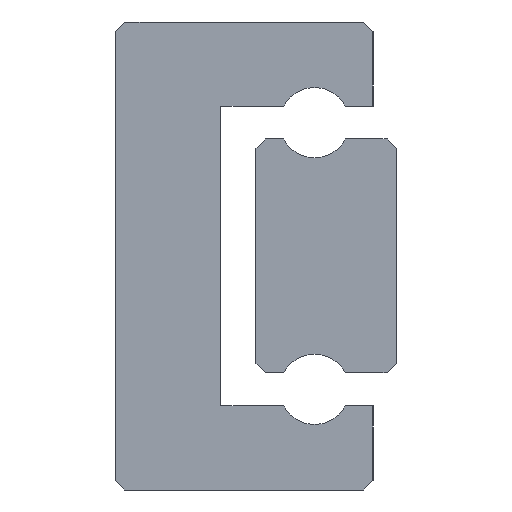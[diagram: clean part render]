
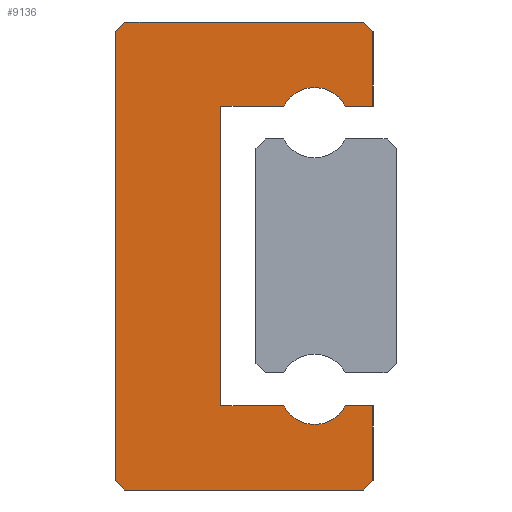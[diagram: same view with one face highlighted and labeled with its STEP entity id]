
A CAD part, left-side view. The second image highlights one B-rep face of the part: STEP entity #9136.
In plain terms, the highlighted planar face has unit normal (-1, 0, 0).
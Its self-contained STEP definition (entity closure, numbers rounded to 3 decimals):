
#65=PLANE('',#9946);
#271=LINE('',#13918,#1077);
#409=LINE('',#14691,#1215);
#412=LINE('',#14697,#1218);
#415=LINE('',#14703,#1221);
#419=LINE('',#14715,#1225);
#422=LINE('',#14729,#1228);
#425=LINE('',#14735,#1231);
#429=LINE('',#14747,#1235);
#432=LINE('',#14753,#1238);
#435=LINE('',#14759,#1241);
#438=LINE('',#14765,#1244);
#441=LINE('',#14771,#1247);
#444=LINE('',#14785,#1250);
#447=LINE('',#14791,#1253);
#1077=VECTOR('',#10863,1000.);
#1215=VECTOR('',#11499,1000.);
#1218=VECTOR('',#11504,1000.);
#1221=VECTOR('',#11509,1000.);
#1225=VECTOR('',#11521,1000.);
#1228=VECTOR('',#11534,1000.);
#1231=VECTOR('',#11539,1000.);
#1235=VECTOR('',#11551,1000.);
#1238=VECTOR('',#11556,1000.);
#1241=VECTOR('',#11561,1000.);
#1244=VECTOR('',#11566,1000.);
#1247=VECTOR('',#11571,1000.);
#1250=VECTOR('',#11584,1000.);
#1253=VECTOR('',#11589,1000.);
#2409=ORIENTED_EDGE('',*,*,#4731,.F.);
#2410=ORIENTED_EDGE('',*,*,#5167,.F.);
#2411=ORIENTED_EDGE('',*,*,#5164,.F.);
#2412=ORIENTED_EDGE('',*,*,#5157,.F.);
#2413=ORIENTED_EDGE('',*,*,#5154,.F.);
#2414=ORIENTED_EDGE('',*,*,#5151,.F.);
#2415=ORIENTED_EDGE('',*,*,#5148,.F.);
#2416=ORIENTED_EDGE('',*,*,#5145,.F.);
#2417=ORIENTED_EDGE('',*,*,#5142,.T.);
#2418=ORIENTED_EDGE('',*,*,#5139,.F.);
#2419=ORIENTED_EDGE('',*,*,#5136,.F.);
#2420=ORIENTED_EDGE('',*,*,#5129,.F.);
#2421=ORIENTED_EDGE('',*,*,#5126,.T.);
#2422=ORIENTED_EDGE('',*,*,#5123,.F.);
#2423=ORIENTED_EDGE('',*,*,#5120,.F.);
#2424=ORIENTED_EDGE('',*,*,#5117,.F.);
#4731=EDGE_CURVE('',#6137,#6138,#271,.T.);
#5117=EDGE_CURVE('',#6138,#6523,#409,.T.);
#5120=EDGE_CURVE('',#6523,#6525,#412,.T.);
#5123=EDGE_CURVE('',#6525,#6527,#415,.T.);
#5126=EDGE_CURVE('',#6529,#6527,#7317,.T.);
#5129=EDGE_CURVE('',#6529,#6531,#419,.T.);
#5136=EDGE_CURVE('',#6531,#6537,#422,.T.);
#5139=EDGE_CURVE('',#6537,#6539,#425,.T.);
#5142=EDGE_CURVE('',#6541,#6539,#7323,.T.);
#5145=EDGE_CURVE('',#6541,#6543,#429,.T.);
#5148=EDGE_CURVE('',#6543,#6545,#432,.T.);
#5151=EDGE_CURVE('',#6545,#6547,#435,.T.);
#5154=EDGE_CURVE('',#6547,#6549,#438,.T.);
#5157=EDGE_CURVE('',#6549,#6551,#441,.T.);
#5164=EDGE_CURVE('',#6551,#6557,#444,.T.);
#5167=EDGE_CURVE('',#6557,#6137,#447,.T.);
#6137=VERTEX_POINT('',#13919);
#6138=VERTEX_POINT('',#13920);
#6523=VERTEX_POINT('',#14692);
#6525=VERTEX_POINT('',#14698);
#6527=VERTEX_POINT('',#14704);
#6529=VERTEX_POINT('',#14710);
#6531=VERTEX_POINT('',#14716);
#6537=VERTEX_POINT('',#14730);
#6539=VERTEX_POINT('',#14736);
#6541=VERTEX_POINT('',#14742);
#6543=VERTEX_POINT('',#14748);
#6545=VERTEX_POINT('',#14754);
#6547=VERTEX_POINT('',#14760);
#6549=VERTEX_POINT('',#14766);
#6551=VERTEX_POINT('',#14772);
#6557=VERTEX_POINT('',#14786);
#7317=CIRCLE('',#9922,0.75);
#7323=CIRCLE('',#9932,0.75);
#7745=EDGE_LOOP('',(#2409,#2410,#2411,#2412,#2413,#2414,#2415,#2416,#2417,
#2418,#2419,#2420,#2421,#2422,#2423,#2424));
#8309=FACE_BOUND('',#7745,.T.);
#9136=ADVANCED_FACE('',(#8309),#65,.F.);
#9922=AXIS2_PLACEMENT_3D('',#14709,#11514,#11515);
#9932=AXIS2_PLACEMENT_3D('',#14741,#11544,#11545);
#9946=AXIS2_PLACEMENT_3D('',#14794,#11593,#11594);
#10863=DIRECTION('',(0.,-1.,0.));
#11499=DIRECTION('',(0.,-0.707,-0.707));
#11504=DIRECTION('',(0.,0.,-1.));
#11509=DIRECTION('',(0.,1.,0.));
#11514=DIRECTION('',(1.,0.,0.));
#11515=DIRECTION('',(0.,0.,-1.));
#11521=DIRECTION('',(0.,1.,0.));
#11534=DIRECTION('',(0.,0.,-1.));
#11539=DIRECTION('',(0.,-1.,0.));
#11544=DIRECTION('',(1.,0.,0.));
#11545=DIRECTION('',(0.,0.,-1.));
#11551=DIRECTION('',(0.,-1.,0.));
#11556=DIRECTION('',(0.,0.,-1.));
#11561=DIRECTION('',(0.,0.707,-0.707));
#11566=DIRECTION('',(0.,1.,0.));
#11571=DIRECTION('',(0.,0.707,0.707));
#11584=DIRECTION('',(0.,0.,1.));
#11589=DIRECTION('',(0.,-0.707,0.707));
#11593=DIRECTION('',(1.,0.,0.));
#11594=DIRECTION('',(0.,0.,-1.));
#13918=CARTESIAN_POINT('',(-12.5,5.3,5.));
#13919=CARTESIAN_POINT('',(-12.5,5.3,5.));
#13920=CARTESIAN_POINT('',(-12.5,0.2,5.));
#14691=CARTESIAN_POINT('',(-12.5,0.2,5.));
#14692=CARTESIAN_POINT('',(-12.5,0.,4.8));
#14697=CARTESIAN_POINT('',(-12.5,0.,4.8));
#14698=CARTESIAN_POINT('',(-12.5,0.,3.2));
#14703=CARTESIAN_POINT('',(-12.5,0.,3.2));
#14704=CARTESIAN_POINT('',(-12.5,0.587,3.2));
#14709=CARTESIAN_POINT('',(-12.5,1.25,2.85));
#14710=CARTESIAN_POINT('',(-12.5,1.913,3.2));
#14715=CARTESIAN_POINT('',(-12.5,1.913,3.2));
#14716=CARTESIAN_POINT('',(-12.5,3.25,3.2));
#14729=CARTESIAN_POINT('',(-12.5,3.25,3.2));
#14730=CARTESIAN_POINT('',(-12.5,3.25,-3.2));
#14735=CARTESIAN_POINT('',(-12.5,3.25,-3.2));
#14736=CARTESIAN_POINT('',(-12.5,1.913,-3.2));
#14741=CARTESIAN_POINT('',(-12.5,1.25,-2.85));
#14742=CARTESIAN_POINT('',(-12.5,0.587,-3.2));
#14747=CARTESIAN_POINT('',(-12.5,0.587,-3.2));
#14748=CARTESIAN_POINT('',(-12.5,0.,-3.2));
#14753=CARTESIAN_POINT('',(-12.5,0.,-3.2));
#14754=CARTESIAN_POINT('',(-12.5,0.,-4.8));
#14759=CARTESIAN_POINT('',(-12.5,0.,-4.8));
#14760=CARTESIAN_POINT('',(-12.5,0.2,-5.));
#14765=CARTESIAN_POINT('',(-12.5,0.2,-5.));
#14766=CARTESIAN_POINT('',(-12.5,5.3,-5.));
#14771=CARTESIAN_POINT('',(-12.5,5.3,-5.));
#14772=CARTESIAN_POINT('',(-12.5,5.5,-4.8));
#14785=CARTESIAN_POINT('',(-12.5,5.5,-4.8));
#14786=CARTESIAN_POINT('',(-12.5,5.5,4.8));
#14791=CARTESIAN_POINT('',(-12.5,5.5,4.8));
#14794=CARTESIAN_POINT('',(-12.5,1.25,2.85));
